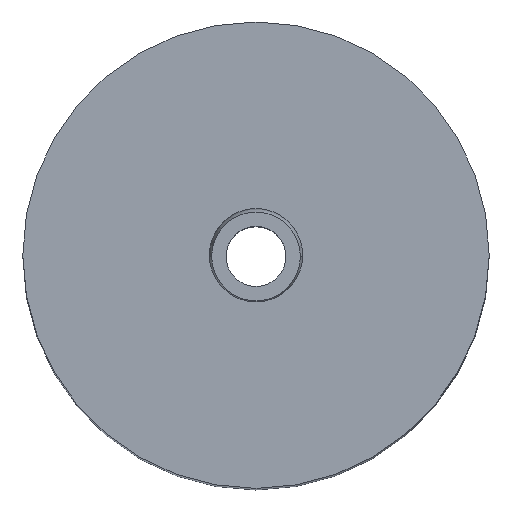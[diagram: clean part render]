
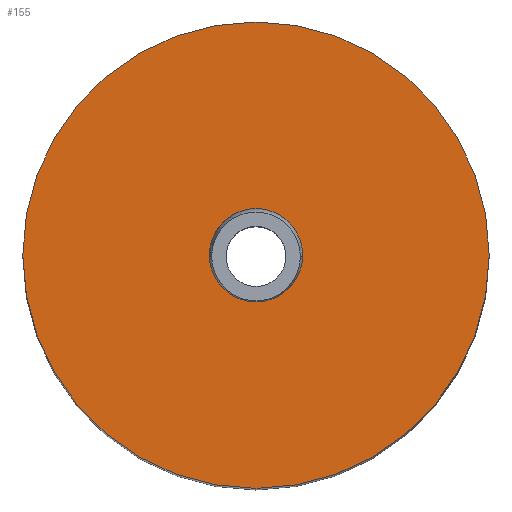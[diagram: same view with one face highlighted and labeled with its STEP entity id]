
A CAD part, top view. The second image highlights one B-rep face of the part: STEP entity #155.
In plain terms, the highlighted planar face has unit normal (0, 0, 1).
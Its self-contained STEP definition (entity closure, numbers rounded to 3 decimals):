
#155=ADVANCED_FACE('',(#179,#180),#174,.T.);
#174=PLANE('',#380);
#179=FACE_BOUND('',#189,.T.);
#180=FACE_BOUND('',#190,.T.);
#189=EDGE_LOOP('',(#213,#214));
#190=EDGE_LOOP('',(#215,#216));
#213=ORIENTED_EDGE('',*,*,#313,.T.);
#214=ORIENTED_EDGE('',*,*,#314,.T.);
#215=ORIENTED_EDGE('',*,*,#315,.F.);
#216=ORIENTED_EDGE('',*,*,#316,.F.);
#289=VERTEX_POINT('',#523);
#290=VERTEX_POINT('',#524);
#291=VERTEX_POINT('',#527);
#292=VERTEX_POINT('',#528);
#313=EDGE_CURVE('',#289,#290,#351,.T.);
#314=EDGE_CURVE('',#290,#289,#352,.T.);
#315=EDGE_CURVE('',#291,#292,#353,.T.);
#316=EDGE_CURVE('',#292,#291,#354,.T.);
#351=CIRCLE('',#376,35.);
#352=CIRCLE('',#377,35.);
#353=CIRCLE('',#378,7.);
#354=CIRCLE('',#379,7.);
#376=AXIS2_PLACEMENT_3D('',#522,#421,#422);
#377=AXIS2_PLACEMENT_3D('',#525,#423,#424);
#378=AXIS2_PLACEMENT_3D('',#526,#425,#426);
#379=AXIS2_PLACEMENT_3D('',#529,#427,#428);
#380=AXIS2_PLACEMENT_3D('',#530,#429,#430);
#421=DIRECTION('',(0.,0.,1.));
#422=DIRECTION('',(0.,1.,0.));
#423=DIRECTION('',(0.,0.,1.));
#424=DIRECTION('',(0.,-1.,0.));
#425=DIRECTION('',(0.,0.,1.));
#426=DIRECTION('',(0.,-1.,0.));
#427=DIRECTION('',(0.,0.,1.));
#428=DIRECTION('',(0.,1.,0.));
#429=DIRECTION('',(0.,0.,1.));
#430=DIRECTION('',(0.,1.,0.));
#522=CARTESIAN_POINT('',(0.,0.,140.));
#523=CARTESIAN_POINT('',(-35.,0.,140.));
#524=CARTESIAN_POINT('',(35.,0.,140.));
#525=CARTESIAN_POINT('',(0.,0.,140.));
#526=CARTESIAN_POINT('',(0.,0.,140.));
#527=CARTESIAN_POINT('',(7.,0.,140.));
#528=CARTESIAN_POINT('',(-7.,0.,140.));
#529=CARTESIAN_POINT('',(0.,0.,140.));
#530=CARTESIAN_POINT('',(0.,0.,140.));
